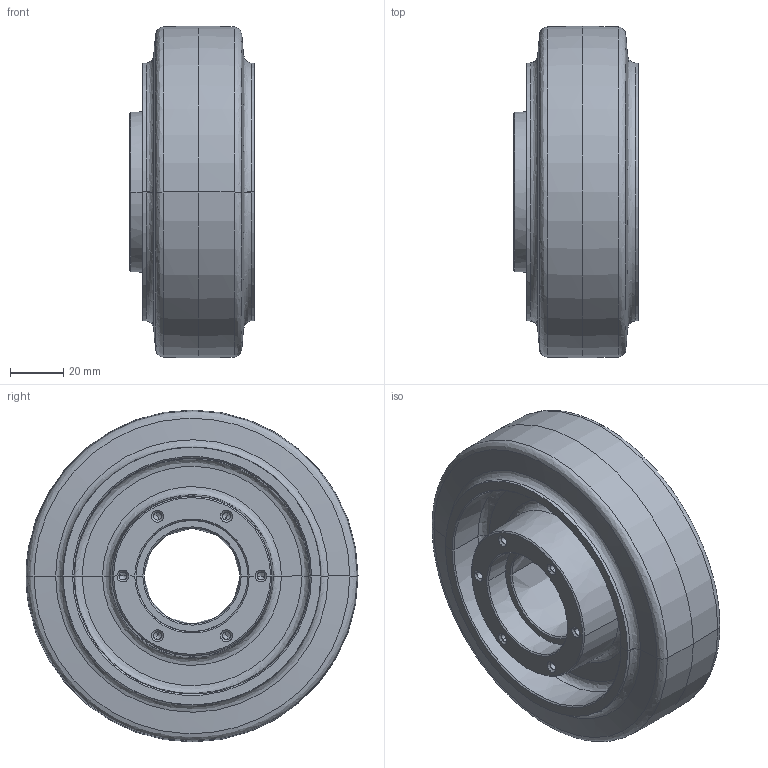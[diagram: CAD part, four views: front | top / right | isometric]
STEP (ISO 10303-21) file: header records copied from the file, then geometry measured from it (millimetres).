
FILE_DESCRIPTION (( 'STEP AP214' ), '1' );
FILE_NAME ('DWR-125S.STEP', '2022-11-29T03:30:45', ( 'sakai' ), ( 'Hewlett-Packard' ), 'SwSTEP 2.0', 'SolidWorks 2010', '' );
FILE_SCHEMA (( 'AUTOMOTIVE_DESIGN' ));
Length unit declared in the file: millimetre
Products named in the file (3): Part4; Part5; DWR-125S
Assembly tree (2 placements, depth 2):
  DWR-125S
    Part5
    Part4
Bounding box: 47 x 125 x 125 mm (x, y, z)
Volume: 311490.5 mm3; surface area: 80359.5 mm2
Topology: 2 solids, 2 shells, 112 faces, 244 edges, 124 vertices
Faces by surface type: bspline 96, plane 16
Entity records: 13545 total; most frequent: CARTESIAN_POINT 11678, ORIENTED_EDGE 464, EDGE_CURVE 232, DIRECTION 139, B_SPLINE_CURVE_WITH_KNOTS 135, VERTEX_POINT 124, EDGE_LOOP 116, FACE_OUTER_BOUND 112
